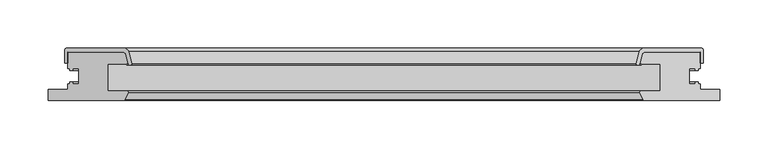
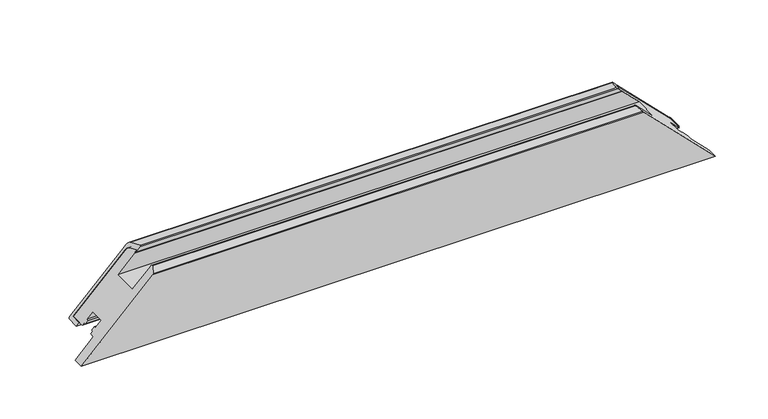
"""IFC4 building model written with IfcOpenShell, lengths in millimetres: proxy geometry, Weiku - Montante - Folha 02.2.01.017 : Weiku - Montante - Folha 02.2.01.017."""

from ifc_helpers import new_model, si_unit, frame, origin, place, context, project, spatial, polyline, ellipse_curve, source, transform, mapped, element, save
from ifc_brep_helpers import plane_surface, cylinder_surface, revolved_surface, advanced_brep


def generic_models_9dc1b71f(model_context):
    return source(origin(), model_context, "Body", "AdvancedBrep", [
        advanced_brep(
        [(326.75, 50.0, 20.0), (269.7497332, 50.0, 77.0002668), (-269.7497332, 50.0, 77.0002668), (-326.75, 50.0, 20.0), (266.8519557, 47.7764571, 79.8980443), (-266.8519557, 47.7764571, 79.8980443), (264.2670371, 38.1294095, 82.4829629), (-264.2670371, 38.1294095, 82.4829629), (264.75, 37.5, 82.0), (-264.75, 37.5, 82.0), (265.6060102, 37.5, 81.1439898), (-265.6060102, 37.5, 81.1439898), (265.6060102, 36.5, 81.1439898), (-265.6060102, 36.5, 81.1439898), (260.9925588, 36.5, 85.7574412), (-260.9925588, 36.5, 85.7574412), (260.0266329, 37.758819, 86.7233671), (-260.0266329, 37.758819, 86.7233671), (263.3854501, 50.2940952, 83.3645499), (-263.3854501, 50.2940952, 83.3645499), (268.2150792, 54.0, 78.5349208), (-268.2150792, 54.0, 78.5349208), (327.75, 54.0, 19.0), (-327.75, 54.0, 19.0), (329.75, 52.0, 17.0), (-329.75, 52.0, 17.0), (329.75, 38.5, 17.0), (-329.75, 38.5, 17.0), (326.75, 38.5, 20.0), (-326.75, 38.5, 20.0)],
        [
            (0, 1),
            (1, 2),
            (2, 3),
            (3, 0),
            (1, 4, ellipse_curve(frame((269.7497332, 47.0, 77.0002668), z_axis=(0.7071067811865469, 0.0, 0.7071067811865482), x_axis=(0.707106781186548, 0.0, -0.7071067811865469)), 4.2426407, 3.0)),
            (4, 5),
            (5, 2, ellipse_curve(frame((-269.7497332, 47.0, 77.0002668), z_axis=(-0.7071067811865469, 0.0, 0.7071067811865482), x_axis=(0.707106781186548, 0.0, 0.7071067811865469)), 4.2426407, 3.0)),
            (4, 6),
            (6, 7),
            (7, 5),
            (6, 8, ellipse_curve(frame((264.75, 38.0, 82.0), z_axis=(0.7071067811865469, 0.0, 0.7071067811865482), x_axis=(0.707106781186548, 0.0, -0.7071067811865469)), 0.7071068, 0.5)),
            (8, 9),
            (9, 7, ellipse_curve(frame((-264.75, 38.0, 82.0), z_axis=(-0.7071067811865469, 0.0, 0.7071067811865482), x_axis=(0.707106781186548, 0.0, 0.7071067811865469)), 0.7071068, 0.5)),
            (8, 10),
            (10, 11),
            (11, 9),
            (10, 12, ellipse_curve(frame((265.6060102, 37.0, 81.1439898), z_axis=(-0.7071067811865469, 0.0, -0.7071067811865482), x_axis=(-0.707106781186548, 0.0, 0.7071067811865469)), 0.7071068, 0.5)),
            (12, 13),
            (13, 11, ellipse_curve(frame((-265.6060102, 37.0, 81.1439898), z_axis=(0.7071067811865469, 0.0, -0.7071067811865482), x_axis=(-0.707106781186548, 0.0, -0.7071067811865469)), 0.7071068, 0.5)),
            (12, 14),
            (14, 15),
            (15, 13),
            (14, 16, ellipse_curve(frame((260.9925588, 37.5, 85.7574412), z_axis=(-0.7071067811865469, 0.0, -0.7071067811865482), x_axis=(-0.707106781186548, 0.0, 0.7071067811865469)), 1.4142136, 1.0)),
            (16, 17),
            (17, 15, ellipse_curve(frame((-260.9925588, 37.5, 85.7574412), z_axis=(0.7071067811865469, 0.0, -0.7071067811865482), x_axis=(-0.707106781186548, 0.0, -0.7071067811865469)), 1.4142136, 1.0)),
            (16, 18),
            (18, 19),
            (19, 17),
            (18, 20, ellipse_curve(frame((268.2150792, 49.0, 78.5349208), z_axis=(-0.7071067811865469, 0.0, -0.7071067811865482), x_axis=(-0.707106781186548, 0.0, 0.7071067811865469)), 7.0710678, 5.0)),
            (20, 21),
            (21, 19, ellipse_curve(frame((-268.2150792, 49.0, 78.5349208), z_axis=(0.7071067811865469, 0.0, -0.7071067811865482), x_axis=(-0.707106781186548, 0.0, -0.7071067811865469)), 7.0710678, 5.0)),
            (20, 22),
            (22, 23),
            (23, 21),
            (22, 24, ellipse_curve(frame((327.75, 52.0, 19.0), z_axis=(-0.7071067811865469, 0.0, -0.7071067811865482), x_axis=(-0.707106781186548, 0.0, 0.7071067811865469)), 2.8284271, 2.0)),
            (24, 25),
            (25, 23, ellipse_curve(frame((-327.75, 52.0, 19.0), z_axis=(0.7071067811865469, 0.0, -0.7071067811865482), x_axis=(-0.707106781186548, 0.0, -0.7071067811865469)), 2.8284271, 2.0)),
            (24, 26),
            (26, 27),
            (27, 25),
            (26, 28),
            (28, 29),
            (29, 27),
            (28, 0),
            (3, 29),
        ],
        [
            plane_surface(frame((-366.75, 50.0, 20.0), z_axis=(0.0, -1.0, 0.0), x_axis=(1.0, 0.0, 0.0))),
            revolved_surface(polyline([(272.74973320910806, 50.0, 77.0002668), (-272.74973320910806, 50.0, 77.0002668)]), (-366.75, 47.0, 77.0002668), (1.0, 0.0, 0.0)),
            plane_surface(frame((-366.75, 47.7764571, 79.8980443), z_axis=(0.0, -0.2588190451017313, -0.9659258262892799), x_axis=(1.0, 0.0, 0.0))),
            revolved_surface(polyline([(265.25000001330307, 38.5, 82.0), (-265.2500000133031, 38.5, 82.0)]), (-366.75, 38.0, 82.0), (1.0, 0.0, 0.0)),
            plane_surface(frame((-366.75, 37.5, 82.0), z_axis=(0.0, 1.0, 0.0), x_axis=(1.0, 0.0, 0.0))),
            cylinder_surface(frame((-366.75, 37.0, 81.1439898), z_axis=(-1.0, 0.0, 0.0), x_axis=(0.0, 1.0, 0.0)), 0.5),
            plane_surface(frame((-366.75, 36.5, 81.1439898), z_axis=(0.0, -1.0, 0.0), x_axis=(1.0, 0.0, 0.0))),
            cylinder_surface(frame((-366.75, 37.5, 85.7574412), z_axis=(-1.0, 0.0, 0.0), x_axis=(0.0, 1.0, 0.0)), 1.0),
            plane_surface(frame((-366.75, 37.758819, 86.7233671), z_axis=(0.0, 0.25881904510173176, 0.9659258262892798), x_axis=(1.0, 0.0, 0.0))),
            cylinder_surface(frame((-366.75, 49.0, 78.5349208), z_axis=(-1.0, 0.0, 0.0), x_axis=(0.0, 1.0, 0.0)), 5.0),
            plane_surface(frame((-366.75, 54.0, 78.5349208), z_axis=(0.0, 1.0, 0.0), x_axis=(1.0, 0.0, 0.0))),
            cylinder_surface(frame((-366.75, 52.0, 19.0), z_axis=(-1.0, 0.0, 0.0), x_axis=(0.0, 1.0, 0.0)), 2.0),
            plane_surface(frame((-366.75, 52.0, 17.0), z_axis=(0.0, 0.0, -1.0), x_axis=(1.0, 0.0, 0.0))),
            plane_surface(frame((-366.75, 38.5, 17.0), z_axis=(0.0, -1.0, 0.0), x_axis=(1.0, 0.0, 0.0))),
            plane_surface(frame((-366.75, 38.5, 20.0), z_axis=(0.0, 0.0, 1.0), x_axis=(1.0, 0.0, 0.0))),
            plane_surface(frame((256.75, 0.0, 90.0), z_axis=(0.7071067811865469, 0.0, 0.7071067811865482), x_axis=(0.0, 1.0, 0.0))),
            plane_surface(frame((-375.0342712, 0.0, -28.2842712), z_axis=(-0.7071067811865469, 0.0, 0.7071067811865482), x_axis=(0.0, 1.0, 0.0))),
        ],
        [
            (0, [[1, 2, 3, 4]]),
            (1, [[5, 6, 7, -2]]),
            (2, [[8, 9, 10, -6]]),
            (3, [[11, 12, 13, -9]]),
            (4, [[14, 15, 16, -12]]),
            (5, [[17, 18, 19, -15]]),
            (6, [[20, 21, 22, -18]]),
            (7, [[23, 24, 25, -21]]),
            (8, [[26, 27, 28, -24]]),
            (9, [[29, 30, 31, -27]]),
            (10, [[32, 33, 34, -30]]),
            (11, [[35, 36, 37, -33]]),
            (12, [[38, 39, 40, -36]]),
            (13, [[41, 42, 43, -39]]),
            (14, [[44, -4, 45, -42]]),
            (15, [[-1, -44, -41, -38, -35, -32, -29, -26, -23, -20, -17, -14, -11, -8, -5]]),
            (16, [[-3, -7, -10, -13, -16, -19, -22, -25, -28, -31, -34, -37, -40, -43, -45]]),
        ],
    ),
        advanced_brep(
        [(-326.75, 50.0, 20.0), (-269.7497332, 50.0, 77.0002668), (269.7497332, 50.0, 77.0002668), (326.75, 50.0, 20.0), (-346.75, 0.0, 0.0), (346.75, 0.0, 0.0), (268.7372264, 0.0, 78.0127736), (-268.7372264, 0.0, 78.0127736), (-326.75, 33.1, 20.0), (-324.55, 33.1, 22.2), (-324.55, 31.1, 22.2), (-321.75, 31.1, 25.0), (-321.75, 33.1, 25.0), (-315.25, 33.1, 31.5), (-315.25, 16.9, 31.5), (-321.75, 16.9, 25.0), (-321.75, 18.9, 25.0), (-324.55, 18.9, 22.2), (-324.55, 16.9, 22.2), (-326.75, 16.9, 20.0), (-326.75, 11.5, 20.0), (-346.75, 11.5, 0.0), (-267.8432657, 0.5518546, 78.9067343), (-264.3012796, 7.617411, 82.4487204), (-265.4634285, 9.5, 81.2865715), (-285.25, 9.5, 61.5), (-285.25, 37.5, 61.5), (-264.75, 37.5, 82.0), (-264.2670371, 38.1294095, 82.4829629), (-266.8519557, 47.7764571, 79.8980443), (266.8519557, 47.7764571, 79.8980443), (264.2670371, 38.1294095, 82.4829629), (264.75, 37.5, 82.0), (285.25, 37.5, 61.5), (285.25, 9.5, 61.5), (265.4634285, 9.5, 81.2865715), (264.3012796, 7.617411, 82.4487204), (267.8432657, 0.5518546, 78.9067343), (346.75, 11.5, 0.0), (326.75, 11.5, 20.0), (326.75, 16.9, 20.0), (324.55, 16.9, 22.2), (324.55, 18.9, 22.2), (321.75, 18.9, 25.0), (321.75, 16.9, 25.0), (315.25, 16.9, 31.5), (315.25, 33.1, 31.5), (321.75, 33.1, 25.0), (321.75, 31.1, 25.0), (324.55, 31.1, 22.2), (324.55, 33.1, 22.2), (326.75, 33.1, 20.0)],
        [
            (0, 1),
            (1, 2),
            (2, 3),
            (3, 0),
            (4, 5),
            (5, 6),
            (6, 7),
            (7, 4),
            (0, 8),
            (8, 9),
            (9, 10),
            (10, 11),
            (11, 12),
            (12, 13),
            (13, 14),
            (14, 15),
            (15, 16),
            (16, 17),
            (17, 18),
            (18, 19),
            (19, 20),
            (20, 21),
            (21, 4),
            (7, 22, ellipse_curve(frame((-268.7372264, 1.0, 78.0127736), z_axis=(-0.7071067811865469, 0.0, 0.7071067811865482), x_axis=(-0.707106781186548, 0.0, -0.7071067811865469)), 1.4142136, 1.0)),
            (22, 23),
            (23, 24, ellipse_curve(frame((-265.4634285, 8.2, 81.2865715), z_axis=(-0.7071067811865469, 0.0, 0.7071067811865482), x_axis=(-0.707106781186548, 0.0, -0.7071067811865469)), 1.8384776, 1.3)),
            (24, 25),
            (25, 26),
            (26, 27),
            (27, 28, ellipse_curve(frame((-264.75, 38.0, 82.0), z_axis=(-0.7071067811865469, 0.0, 0.7071067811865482), x_axis=(-0.707106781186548, 0.0, -0.7071067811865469)), 0.7071068, 0.5)),
            (28, 29),
            (29, 1, ellipse_curve(frame((-269.7497332, 47.0, 77.0002668), z_axis=(-0.7071067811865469, 0.0, 0.7071067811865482), x_axis=(-0.707106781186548, 0.0, -0.7071067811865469)), 4.2426407, 3.0)),
            (2, 30, ellipse_curve(frame((269.7497332, 47.0, 77.0002668), z_axis=(0.7071067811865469, 0.0, 0.7071067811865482), x_axis=(-0.707106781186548, 0.0, 0.7071067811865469)), 4.2426407, 3.0)),
            (30, 31),
            (31, 32, ellipse_curve(frame((264.75, 38.0, 82.0), z_axis=(0.7071067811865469, 0.0, 0.7071067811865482), x_axis=(-0.707106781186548, 0.0, 0.7071067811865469)), 0.7071068, 0.5)),
            (32, 33),
            (33, 34),
            (34, 35),
            (35, 36, ellipse_curve(frame((265.4634285, 8.2, 81.2865715), z_axis=(0.7071067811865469, 0.0, 0.7071067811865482), x_axis=(-0.707106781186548, 0.0, 0.7071067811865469)), 1.8384776, 1.3)),
            (36, 37),
            (37, 6, ellipse_curve(frame((268.7372264, 1.0, 78.0127736), z_axis=(0.7071067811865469, 0.0, 0.7071067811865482), x_axis=(-0.707106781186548, 0.0, 0.7071067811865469)), 1.4142136, 1.0)),
            (5, 38),
            (38, 39),
            (39, 40),
            (40, 41),
            (41, 42),
            (42, 43),
            (43, 44),
            (44, 45),
            (45, 46),
            (46, 47),
            (47, 48),
            (48, 49),
            (49, 50),
            (50, 51),
            (51, 3),
            (37, 22),
            (36, 23),
            (35, 24),
            (34, 25),
            (33, 26),
            (32, 27),
            (31, 28),
            (30, 29),
            (51, 8),
            (50, 9),
            (49, 10),
            (48, 11),
            (47, 12),
            (46, 13),
            (45, 14),
            (44, 15),
            (43, 16),
            (42, 17),
            (41, 18),
            (40, 19),
            (39, 20),
            (38, 21),
        ],
        [
            plane_surface(frame((-346.75, 50.0, 77.0002668), z_axis=(0.0, 1.0, 0.0), x_axis=(1.0, 0.0, 0.0))),
            plane_surface(frame((-346.75, 0.0, 0.0), z_axis=(0.0, -1.0, 0.0), x_axis=(1.0, 0.0, 0.0))),
            plane_surface(frame((-375.0342712, 0.0, -28.2842712), z_axis=(-0.7071067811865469, 0.0, 0.7071067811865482), x_axis=(0.0, 1.0, 0.0))),
            plane_surface(frame((256.75, 0.0, 90.0), z_axis=(0.7071067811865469, 0.0, 0.7071067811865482), x_axis=(0.0, 1.0, 0.0))),
            cylinder_surface(frame((-346.75, 1.0, 78.0127736), z_axis=(-1.0, 0.0, 0.0), x_axis=(0.0, 1.0, 0.0)), 1.0),
            plane_surface(frame((-346.75, 0.5518546, 78.9067343), z_axis=(0.0, -0.4481453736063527, 0.8939606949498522), x_axis=(1.0, 0.0, 0.0))),
            cylinder_surface(frame((-346.75, 8.2, 81.2865715), z_axis=(-1.0, 0.0, 0.0), x_axis=(0.0, 1.0, 0.0)), 1.3),
            plane_surface(frame((-346.75, 9.5, 81.2865715), z_axis=(0.0, 1.0, 0.0), x_axis=(1.0, 0.0, 0.0))),
            plane_surface(frame((-346.75, 9.5, 61.5), z_axis=(0.0, 0.0, 1.0), x_axis=(1.0, 0.0, 0.0))),
            plane_surface(frame((-346.75, 37.5, 61.5), z_axis=(0.0, -1.0, 0.0), x_axis=(1.0, 0.0, 0.0))),
            cylinder_surface(frame((-346.75, 38.0, 82.0), z_axis=(-1.0, 0.0, 0.0), x_axis=(0.0, 1.0, 0.0)), 0.5),
            plane_surface(frame((-346.75, 38.1294095, 82.4829629), z_axis=(0.0, 0.2588190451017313, 0.9659258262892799), x_axis=(1.0, 0.0, 0.0))),
            cylinder_surface(frame((-346.75, 47.0, 77.0002668), z_axis=(-1.0, 0.0, 0.0), x_axis=(0.0, 1.0, 0.0)), 3.0),
            plane_surface(frame((-346.75, 50.0, 20.0), z_axis=(0.0, 0.0, -1.0), x_axis=(1.0, 0.0, 0.0))),
            plane_surface(frame((-346.75, 33.1, 20.0), z_axis=(0.0, -1.0, 0.0), x_axis=(1.0, 0.0, 0.0))),
            plane_surface(frame((-346.75, 33.1, 22.2), z_axis=(0.0, 0.0, -1.0), x_axis=(1.0, 0.0, 0.0))),
            plane_surface(frame((-346.75, 31.1, 22.2), z_axis=(0.0, -1.0, 0.0), x_axis=(1.0, 0.0, 0.0))),
            plane_surface(frame((-346.75, 31.1, 25.0), z_axis=(0.0, 0.0, 1.0), x_axis=(1.0, 0.0, 0.0))),
            plane_surface(frame((-346.75, 33.1, 25.0), z_axis=(0.0, -1.0, 0.0), x_axis=(1.0, 0.0, 0.0))),
            plane_surface(frame((-346.75, 33.1, 31.5), z_axis=(0.0, 0.0, -1.0), x_axis=(1.0, 0.0, 0.0))),
            plane_surface(frame((-346.75, 16.9, 31.5), z_axis=(0.0, 1.0, 0.0), x_axis=(1.0, 0.0, 0.0))),
            plane_surface(frame((-346.75, 16.9, 25.0), z_axis=(0.0, 0.0, 1.0), x_axis=(1.0, 0.0, 0.0))),
            plane_surface(frame((-346.75, 18.9, 25.0), z_axis=(0.0, 1.0, 0.0), x_axis=(1.0, 0.0, 0.0))),
            plane_surface(frame((-346.75, 18.9, 22.2), z_axis=(0.0, 0.0, -1.0), x_axis=(1.0, 0.0, 0.0))),
            plane_surface(frame((-346.75, 16.9, 22.2), z_axis=(0.0, 1.0, 0.0), x_axis=(1.0, 0.0, 0.0))),
            plane_surface(frame((-346.75, 16.9, 20.0), z_axis=(0.0, 0.0, -1.0), x_axis=(1.0, 0.0, 0.0))),
            plane_surface(frame((-346.75, 11.5, 20.0), z_axis=(0.0, 1.0, 0.0), x_axis=(1.0, 0.0, 0.0))),
            plane_surface(frame((-346.75, 11.5, 0.0), z_axis=(0.0, 0.0, -1.0), x_axis=(1.0, 0.0, 0.0))),
        ],
        [
            (0, [[1, 2, 3, 4]]),
            (1, [[5, 6, 7, 8]]),
            (2, [[-1, 9, 10, 11, 12, 13, 14, 15, 16, 17, 18, 19, 20, 21, 22, 23, -8, 24, 25, 26, 27, 28, 29, 30, 31, 32]]),
            (3, [[-3, 33, 34, 35, 36, 37, 38, 39, 40, 41, -6, 42, 43, 44, 45, 46, 47, 48, 49, 50, 51, 52, 53, 54, 55, 56]]),
            (4, [[-24, -7, -41, 57]]),
            (5, [[-25, -57, -40, 58]]),
            (6, [[-26, -58, -39, 59]]),
            (7, [[-27, -59, -38, 60]]),
            (8, [[-28, -60, -37, 61]]),
            (9, [[-29, -61, -36, 62]]),
            (10, [[-30, -62, -35, 63]]),
            (11, [[-31, -63, -34, 64]]),
            (12, [[-32, -64, -33, -2]]),
            (13, [[-9, -4, -56, 65]]),
            (14, [[-10, -65, -55, 66]]),
            (15, [[-11, -66, -54, 67]]),
            (16, [[-12, -67, -53, 68]]),
            (17, [[-13, -68, -52, 69]]),
            (18, [[-14, -69, -51, 70]]),
            (19, [[-15, -70, -50, 71]]),
            (20, [[-16, -71, -49, 72]]),
            (21, [[-17, -72, -48, 73]]),
            (22, [[-18, -73, -47, 74]]),
            (23, [[-19, -74, -46, 75]]),
            (24, [[-20, -75, -45, 76]]),
            (25, [[-21, -76, -44, 77]]),
            (26, [[78, -22, -77, -43]]),
            (27, [[-5, -23, -78, -42]]),
        ],
    ),
    ])


if __name__ == "__main__":
    model = new_model("IFC4")
    model_context = context("Model", 3, world=origin())
    ifc_project = project(units=[si_unit("LENGTHUNIT", "METRE", prefix="MILLI")], contexts=[model_context])
    site = spatial("IfcSite", under=ifc_project)
    building = spatial("IfcBuilding", under=site)
    placement = place(None, origin())
    generic_models_shape = generic_models_9dc1b71f(model_context)
    element("IfcBuildingElementProxy", 1, Name="Weiku - Montante - Folha 02.2.01.017 : Weiku - Montante - Folha 02.2.01.017", ObjectType="Weiku - Montante - Folha 02.2.01.017 : Weiku - Montante - Folha 02.2.01.017", at=placement, inside=building, context=model_context, shape_type="MappedRepresentation", body=[
        mapped(generic_models_shape, transform((0.0, 0.0, 0.0), x_axis=(1.0, 0.0, 0.0), y_axis=(0.0, 1.0, 0.0), z_axis=(0.0, 0.0, 1.0))),
    ])
    save(model, "model.ifc")
